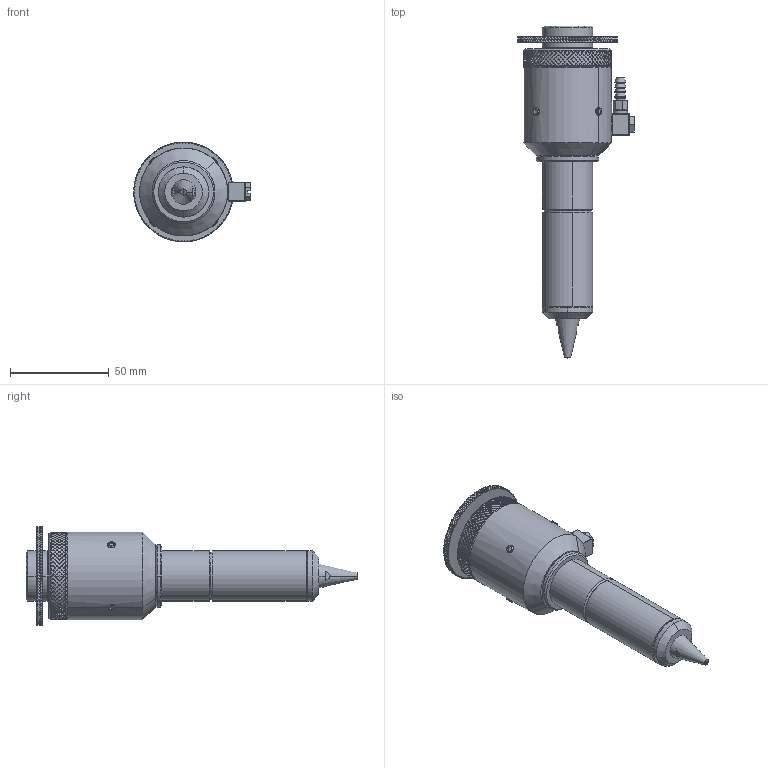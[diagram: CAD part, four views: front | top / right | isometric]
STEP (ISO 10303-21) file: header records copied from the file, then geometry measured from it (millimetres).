
FILE_DESCRIPTION (( 'STEP AP214' ), '1' );
FILE_NAME ('PHA-19-28-127-SB.STEP', '2016-08-19T20:18:27', ( '' ), ( '' ), 'SwSTEP 2.0', 'SolidWorks 2016', '' );
FILE_SCHEMA (( 'AUTOMOTIVE_DESIGN' ));
Length unit declared in the file: inch
Products named in the file (1): PHA-19-28-127-SB
Bounding box: 58.8 x 167.77 x 50.29 mm (x, y, z)
Volume: 128152.3 mm3; surface area: 24810 mm2
Topology: 1 solids, 1 shells, 5609 faces, 14129 edges, 8530 vertices
Faces by surface type: plane 4525, cylinder 989, cone 38, torus 37, sphere 20
Entity records: 162255 total; most frequent: CARTESIAN_POINT 40405, ORIENTED_EDGE 28218, DIRECTION 21962, EDGE_CURVE 14109, LINE 9648, VECTOR 9648, VERTEX_POINT 8530, AXIS2_PLACEMENT_3D 6157
